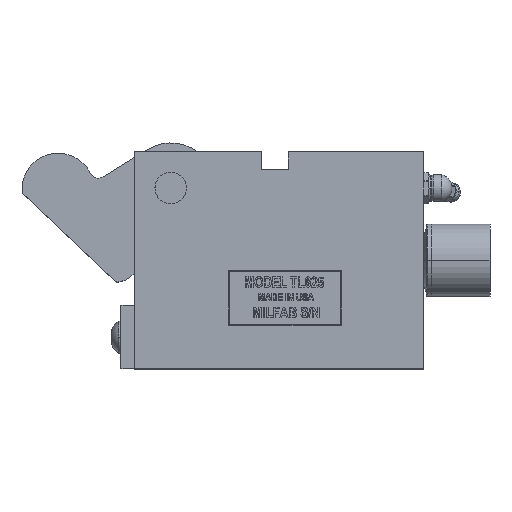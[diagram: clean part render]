
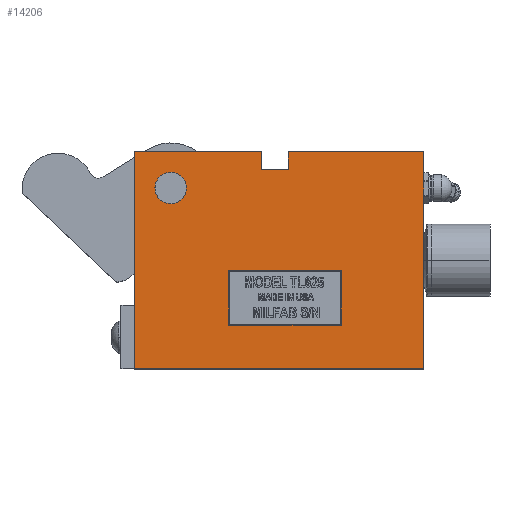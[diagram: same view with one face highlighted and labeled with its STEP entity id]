
A CAD part, top view. The second image highlights one B-rep face of the part: STEP entity #14206.
In plain terms, the highlighted planar face has unit normal (0, 0, 1).
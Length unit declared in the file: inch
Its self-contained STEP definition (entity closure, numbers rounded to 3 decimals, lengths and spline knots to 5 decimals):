
#772 = CARTESIAN_POINT ( 'NONE',  ( 7.78564, 5.77171, 0. ) ) ;
#1094 = CARTESIAN_POINT ( 'NONE',  ( 9.66064, 5.77171, 0. ) ) ;
#1546 = DIRECTION ( 'NONE',  ( -1., 0., 0. ) ) ;
#1547 = VECTOR ( 'NONE', #1546, 39.37008 ) ;
#1569 = LINE ( 'NONE', #1575, #1547 ) ;
#1575 = CARTESIAN_POINT ( 'NONE',  ( 7.78564, 5.77171, 0. ) ) ;
#1826 = DIRECTION ( 'NONE',  ( -1., 0., 0. ) ) ;
#1827 = VECTOR ( 'NONE', #1826, 39.37008 ) ;
#1828 = CARTESIAN_POINT ( 'NONE',  ( 5.66064, 5.77171, 0. ) ) ;
#1829 = LINE ( 'NONE', #1828, #1827 ) ;
#1885 = CARTESIAN_POINT ( 'NONE',  ( 5.66064, 5.77171, 0. ) ) ;
#1913 = CARTESIAN_POINT ( 'NONE',  ( 7.41064, 5.77171, 0. ) ) ;
#6175 = VERTEX_POINT ( 'NONE', #772 ) ;
#6345 = VERTEX_POINT ( 'NONE', #1094 ) ;
#6486 = EDGE_CURVE ( 'NONE', #6345, #6175, #1569, .T. ) ;
#6657 = VERTEX_POINT ( 'NONE', #1885 ) ;
#6666 = EDGE_CURVE ( 'NONE', #6714, #6657, #1829, .T. ) ;
#6714 = VERTEX_POINT ( 'NONE', #1913 ) ;
#11845 = ORIENTED_EDGE ( 'NONE', *, *, #18725, .F. ) ;
#11854 = ORIENTED_EDGE ( 'NONE', *, *, #14334, .T. ) ;
#11892 = ORIENTED_EDGE ( 'NONE', *, *, #14534, .T. ) ;
#11910 = ORIENTED_EDGE ( 'NONE', *, *, #6666, .T. ) ;
#11911 = ORIENTED_EDGE ( 'NONE', *, *, #14209, .T. ) ;
#11912 = ORIENTED_EDGE ( 'NONE', *, *, #14043, .T. ) ;
#11913 = ORIENTED_EDGE ( 'NONE', *, *, #16224, .T. ) ;
#11915 = ORIENTED_EDGE ( 'NONE', *, *, #6486, .T. ) ;
#11919 = ORIENTED_EDGE ( 'NONE', *, *, #14395, .T. ) ;
#11931 = EDGE_LOOP ( 'NONE', ( #11915, #11892, #11854, #11919, #11910, #11911, #11912, #11913 ) ) ;
#14043 = EDGE_CURVE ( 'NONE', #14172, #16225, #21771, .T. ) ;
#14045 = ORIENTED_EDGE ( 'NONE', *, *, #14046, .F. ) ;
#14046 = EDGE_CURVE ( 'NONE', #14228, #14229, #21826, .T. ) ;
#14109 = ORIENTED_EDGE ( 'NONE', *, *, #14111, .F. ) ;
#14111 = EDGE_CURVE ( 'NONE', #14113, #14233, #21703, .T. ) ;
#14113 = VERTEX_POINT ( 'NONE', #21699 ) ;
#14122 = ORIENTED_EDGE ( 'NONE', *, *, #14123, .F. ) ;
#14123 = EDGE_CURVE ( 'NONE', #14229, #14113, #21698, .T. ) ;
#14125 = EDGE_LOOP ( 'NONE', ( #14127, #11845 ) ) ;
#14127 = ORIENTED_EDGE ( 'NONE', *, *, #14129, .F. ) ;
#14129 = EDGE_CURVE ( 'NONE', #18726, #18721, #21694, .T. ) ;
#14166 = VERTEX_POINT ( 'NONE', #22026 ) ;
#14172 = VERTEX_POINT ( 'NONE', #21960 ) ;
#14206 = ADVANCED_FACE ( 'NONE', ( #22044, #22043, #22042 ), #22039, .T. ) ;
#14208 = EDGE_LOOP ( 'NONE', ( #14045, #14230, #14109, #14122 ) ) ;
#14209 = EDGE_CURVE ( 'NONE', #6657, #14172, #22079, .T. ) ;
#14228 = VERTEX_POINT ( 'NONE', #22008 ) ;
#14229 = VERTEX_POINT ( 'NONE', #22007 ) ;
#14230 = ORIENTED_EDGE ( 'NONE', *, *, #14231, .F. ) ;
#14231 = EDGE_CURVE ( 'NONE', #14233, #14228, #21911, .T. ) ;
#14233 = VERTEX_POINT ( 'NONE', #21907 ) ;
#14334 = EDGE_CURVE ( 'NONE', #14336, #14166, #22062, .T. ) ;
#14336 = VERTEX_POINT ( 'NONE', #22058 ) ;
#14395 = EDGE_CURVE ( 'NONE', #14166, #6714, #22057, .T. ) ;
#14534 = EDGE_CURVE ( 'NONE', #6175, #14336, #21514, .T. ) ;
#16224 = EDGE_CURVE ( 'NONE', #16225, #6345, #22200, .T. ) ;
#16225 = VERTEX_POINT ( 'NONE', #22196 ) ;
#17121 = DIRECTION ( 'NONE',  ( 1., 0., 0. ) ) ;
#17122 = DIRECTION ( 'NONE',  ( 0., 0., 1. ) ) ;
#17123 = CARTESIAN_POINT ( 'NONE',  ( 6.16064, 5.27171, 0. ) ) ;
#17124 = AXIS2_PLACEMENT_3D ( 'NONE', #17123, #17122, #17121 ) ;
#17125 = CIRCLE ( 'NONE', #17124, 0.218 ) ;
#17126 = CARTESIAN_POINT ( 'NONE',  ( 5.94264, 5.27171, 0. ) ) ;
#17183 = CARTESIAN_POINT ( 'NONE',  ( 6.37864, 5.27171, 0. ) ) ;
#18721 = VERTEX_POINT ( 'NONE', #17126 ) ;
#18725 = EDGE_CURVE ( 'NONE', #18721, #18726, #17125, .T. ) ;
#18726 = VERTEX_POINT ( 'NONE', #17183 ) ;
#21344 = DIRECTION ( 'NONE',  ( 0., -1., 0. ) ) ;
#21514 = LINE ( 'NONE', #21516, #21515 ) ;
#21515 = VECTOR ( 'NONE', #21344, 39.37008 ) ;
#21516 = CARTESIAN_POINT ( 'NONE',  ( 7.78564, 5.53171, 0. ) ) ;
#21690 = DIRECTION ( 'NONE',  ( 1., 0., 0. ) ) ;
#21691 = DIRECTION ( 'NONE',  ( 0., 0., 1. ) ) ;
#21692 = CARTESIAN_POINT ( 'NONE',  ( 6.16064, 5.27171, 0. ) ) ;
#21693 = AXIS2_PLACEMENT_3D ( 'NONE', #21692, #21691, #21690 ) ;
#21694 = CIRCLE ( 'NONE', #21693, 0.218 ) ;
#21695 = DIRECTION ( 'NONE',  ( 1., 0., 0. ) ) ;
#21696 = VECTOR ( 'NONE', #21695, 39.37008 ) ;
#21697 = CARTESIAN_POINT ( 'NONE',  ( 6.96064, 3.37171, 0. ) ) ;
#21698 = LINE ( 'NONE', #21697, #21696 ) ;
#21699 = CARTESIAN_POINT ( 'NONE',  ( 8.52064, 3.37171, 0. ) ) ;
#21700 = DIRECTION ( 'NONE',  ( 0., 1., 0. ) ) ;
#21701 = VECTOR ( 'NONE', #21700, 39.37008 ) ;
#21702 = CARTESIAN_POINT ( 'NONE',  ( 8.52064, 3.37171, 0. ) ) ;
#21703 = LINE ( 'NONE', #21702, #21701 ) ;
#21771 = LINE ( 'NONE', #21829, #21828 ) ;
#21823 = DIRECTION ( 'NONE',  ( 0., -1., 0. ) ) ;
#21824 = VECTOR ( 'NONE', #21823, 39.37008 ) ;
#21825 = CARTESIAN_POINT ( 'NONE',  ( 6.96064, 3.37171, 0. ) ) ;
#21826 = LINE ( 'NONE', #21825, #21824 ) ;
#21827 = DIRECTION ( 'NONE',  ( 1., 0., 0. ) ) ;
#21828 = VECTOR ( 'NONE', #21827, 39.37008 ) ;
#21829 = CARTESIAN_POINT ( 'NONE',  ( 5.66064, 2.77171, 0. ) ) ;
#21907 = CARTESIAN_POINT ( 'NONE',  ( 8.52064, 4.13171, 0. ) ) ;
#21908 = DIRECTION ( 'NONE',  ( -1., 0., 0. ) ) ;
#21909 = VECTOR ( 'NONE', #21908, 39.37008 ) ;
#21910 = CARTESIAN_POINT ( 'NONE',  ( 6.96064, 4.13171, 0. ) ) ;
#21911 = LINE ( 'NONE', #21910, #21909 ) ;
#21956 = DIRECTION ( 'NONE',  ( 0., 1., 0. ) ) ;
#21957 = VECTOR ( 'NONE', #21956, 39.37008 ) ;
#21958 = CARTESIAN_POINT ( 'NONE',  ( 7.41064, 5.77171, 0. ) ) ;
#21960 = CARTESIAN_POINT ( 'NONE',  ( 5.66064, 2.77171, 0. ) ) ;
#22007 = CARTESIAN_POINT ( 'NONE',  ( 6.96064, 3.37171, 0. ) ) ;
#22008 = CARTESIAN_POINT ( 'NONE',  ( 6.96064, 4.13171, 0. ) ) ;
#22026 = CARTESIAN_POINT ( 'NONE',  ( 7.41064, 5.53171, 0. ) ) ;
#22039 = PLANE ( 'NONE',  #22041 ) ;
#22040 = CARTESIAN_POINT ( 'NONE',  ( 9.66064, 5.77171, 0. ) ) ;
#22041 = AXIS2_PLACEMENT_3D ( 'NONE', #22040, #22081, #22080 ) ;
#22042 = FACE_OUTER_BOUND ( 'NONE', #11931, .T. ) ;
#22043 = FACE_BOUND ( 'NONE', #14125, .T. ) ;
#22044 = FACE_BOUND ( 'NONE', #14208, .T. ) ;
#22057 = LINE ( 'NONE', #21958, #21957 ) ;
#22058 = CARTESIAN_POINT ( 'NONE',  ( 7.78564, 5.53171, 0. ) ) ;
#22059 = DIRECTION ( 'NONE',  ( -1., 0., 0. ) ) ;
#22060 = VECTOR ( 'NONE', #22059, 39.37008 ) ;
#22061 = CARTESIAN_POINT ( 'NONE',  ( 7.41064, 5.53171, 0. ) ) ;
#22062 = LINE ( 'NONE', #22061, #22060 ) ;
#22076 = DIRECTION ( 'NONE',  ( 0., -1., 0. ) ) ;
#22077 = VECTOR ( 'NONE', #22076, 39.37008 ) ;
#22078 = CARTESIAN_POINT ( 'NONE',  ( 5.66064, 2.77171, 0. ) ) ;
#22079 = LINE ( 'NONE', #22078, #22077 ) ;
#22080 = DIRECTION ( 'NONE',  ( 1., 0., 0. ) ) ;
#22081 = DIRECTION ( 'NONE',  ( 0., 0., 1. ) ) ;
#22196 = CARTESIAN_POINT ( 'NONE',  ( 9.66064, 2.77171, 0. ) ) ;
#22197 = DIRECTION ( 'NONE',  ( 0., 1., 0. ) ) ;
#22198 = VECTOR ( 'NONE', #22197, 39.37008 ) ;
#22199 = CARTESIAN_POINT ( 'NONE',  ( 9.66064, 2.77171, 0. ) ) ;
#22200 = LINE ( 'NONE', #22199, #22198 ) ;
